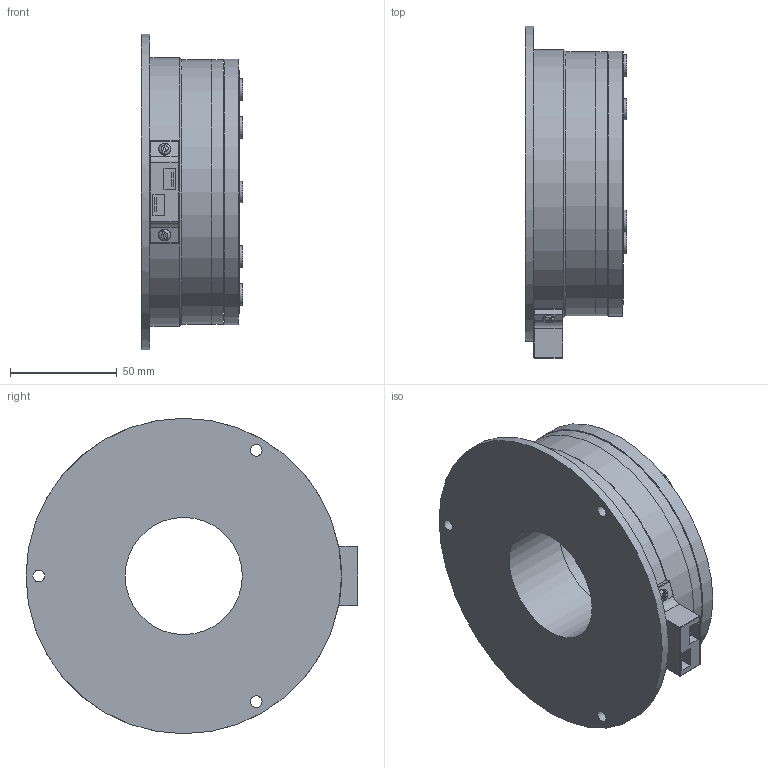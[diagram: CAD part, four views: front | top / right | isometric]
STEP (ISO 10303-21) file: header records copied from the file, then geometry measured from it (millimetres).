
FILE_DESCRIPTION(/* description */ (''),/* implementation_level */ '2;1');
FILE_NAME(/* name */ 'X:\INVENTOR\DISEGNI\08_Freni_Friz_Elettmag_Monodisco\08_28 EMFL_DF\EMFL_DF STEP\08_28_120_11 EMFL120_DF-B_S@STEP.stp',/* time_stamp */ '2018-04-23T15:56:30+02:00',/* author */ ('stefano'),/* organization */ (''),/* preprocessor_version */ 'ST-DEVELOPER v17',/* originating_system */ 'Autodesk Inventor 2018',/* authorisation */ '');
FILE_SCHEMA (('AUTOMOTIVE_DESIGN { 1 0 10303 214 3 1 1 }'));
Length unit declared in the file: millimetre
Products named in the file (1): 08_28_120_11 EMFL120_DF-B - Spina_Substitute_1
Bounding box: 47.5 x 155.75 x 148 mm (x, y, z)
Volume: 385390 mm3; surface area: 112649.7 mm2
Topology: 2 solids, 2 shells, 396 faces, 1121 edges, 709 vertices
Faces by surface type: cylinder 217, plane 113, torus 28, sphere 24, cone 14
Full cylindrical faces by diameter (mm): 2.2 x6, 3 x2, 5.5 x3, 5.6 x2, 6 x1, 6.1 x3, 7.5 x6, 10 x6, 55 x2, 59 x1, 77 x1, 86 x2, 104 x2, 110.5 x1, 124 x2, 124.5 x1, 126 x1, 148 x1
Entity records: 14010 total; most frequent: CARTESIAN_POINT 2704, DIRECTION 2535, ORIENTED_EDGE 2196, EDGE_CURVE 1098, AXIS2_PLACEMENT_3D 1076, VERTEX_POINT 709, CIRCLE 679, EDGE_LOOP 477
